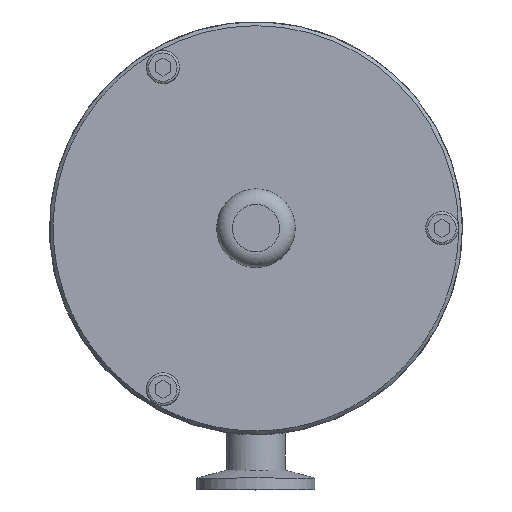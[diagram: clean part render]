
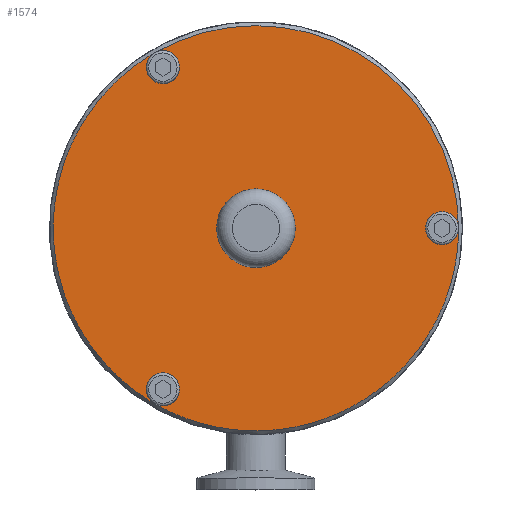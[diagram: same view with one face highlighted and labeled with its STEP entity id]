
A CAD part, top view. The second image highlights one B-rep face of the part: STEP entity #1574.
In plain terms, the highlighted planar face has unit normal (0, 0, 1).
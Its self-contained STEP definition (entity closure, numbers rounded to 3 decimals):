
#1149=CARTESIAN_POINT('',(10.0,0.,21.0));
#1150=VERTEX_POINT('',#1149);
#1151=CARTESIAN_POINT('',(0.0,0.0,21.0));
#1152=DIRECTION('',(0.0,0.0,-1.0));
#1153=DIRECTION('',(-1.0,0.0,0.0));
#1154=AXIS2_PLACEMENT_3D('',#1151,#1152,#1153);
#1155=CIRCLE('',#1154,10.0);
#1156=EDGE_CURVE('',#1150,#1150,#1155,.T.);
#1507=CARTESIAN_POINT('',(-25.75,44.6,21.0));
#1508=VERTEX_POINT('',#1507);
#1509=CARTESIAN_POINT('',(51.5,0.,21.0));
#1510=VERTEX_POINT('',#1509);
#1511=CARTESIAN_POINT('',(0.0,0.0,21.0));
#1512=DIRECTION('',(0.0,0.0,-1.0));
#1513=DIRECTION('',(-1.0,0.0,0.0));
#1514=AXIS2_PLACEMENT_3D('',#1511,#1512,#1513);
#1515=CIRCLE('',#1514,51.5);
#1516=EDGE_CURVE('',#1508,#1510,#1515,.T.);
#1518=CARTESIAN_POINT('',(-25.75,-44.6,21.0));
#1519=VERTEX_POINT('',#1518);
#1520=CARTESIAN_POINT('',(0.0,0.0,21.0));
#1521=DIRECTION('',(0.0,0.0,-1.0));
#1522=DIRECTION('',(-1.0,0.0,0.0));
#1523=AXIS2_PLACEMENT_3D('',#1520,#1521,#1522);
#1524=CIRCLE('',#1523,51.5);
#1525=EDGE_CURVE('',#1510,#1519,#1524,.T.);
#1527=CARTESIAN_POINT('',(0.0,0.0,21.0));
#1528=DIRECTION('',(0.0,0.0,-1.0));
#1529=DIRECTION('',(-1.0,0.0,0.0));
#1530=AXIS2_PLACEMENT_3D('',#1527,#1528,#1529);
#1531=CIRCLE('',#1530,51.5);
#1532=EDGE_CURVE('',#1519,#1508,#1531,.T.);
#1540=CARTESIAN_POINT('',(0.0,0.0,21.0));
#1541=DIRECTION('',(0.0,0.0,-1.0));
#1542=DIRECTION('',(-1.0,0.0,0.0));
#1543=AXIS2_PLACEMENT_3D('',#1540,#1541,#1542);
#1544=PLANE('',#1543);
#1545=CARTESIAN_POINT('',(-23.65,-40.963,21.0));
#1546=DIRECTION('',(0.0,0.0,-1.));
#1547=DIRECTION('',(0.5,0.866,0.0));
#1548=AXIS2_PLACEMENT_3D('',#1545,#1546,#1547);
#1549=CIRCLE('',#1548,4.2);
#1550=EDGE_CURVE('',#1519,#1519,#1549,.T.);
#1551=ORIENTED_EDGE('',*,*,#1550,.T.);
#1552=ORIENTED_EDGE('',*,*,#1525,.F.);
#1553=CARTESIAN_POINT('',(47.3,0.0,21.0));
#1554=DIRECTION('',(0.0,0.0,-1.0));
#1555=DIRECTION('',(-1.0,0.0,0.0));
#1556=AXIS2_PLACEMENT_3D('',#1553,#1554,#1555);
#1557=CIRCLE('',#1556,4.2);
#1558=EDGE_CURVE('',#1510,#1510,#1557,.T.);
#1559=ORIENTED_EDGE('',*,*,#1558,.T.);
#1560=ORIENTED_EDGE('',*,*,#1516,.F.);
#1561=CARTESIAN_POINT('',(-23.65,40.963,21.0));
#1562=DIRECTION('',(0.0,0.0,-1.));
#1563=DIRECTION('',(0.5,-0.866,0.0));
#1564=AXIS2_PLACEMENT_3D('',#1561,#1562,#1563);
#1565=CIRCLE('',#1564,4.2);
#1566=EDGE_CURVE('',#1508,#1508,#1565,.T.);
#1567=ORIENTED_EDGE('',*,*,#1566,.T.);
#1568=ORIENTED_EDGE('',*,*,#1532,.F.);
#1569=EDGE_LOOP('',(#1551,#1552,#1559,#1560,#1567,#1568));
#1570=FACE_OUTER_BOUND('',#1569,.T.);
#1571=ORIENTED_EDGE('',*,*,#1156,.T.);
#1572=EDGE_LOOP('',(#1571));
#1573=FACE_BOUND('',#1572,.T.);
#1574=ADVANCED_FACE('',(#1570,#1573),#1544,.F.);
